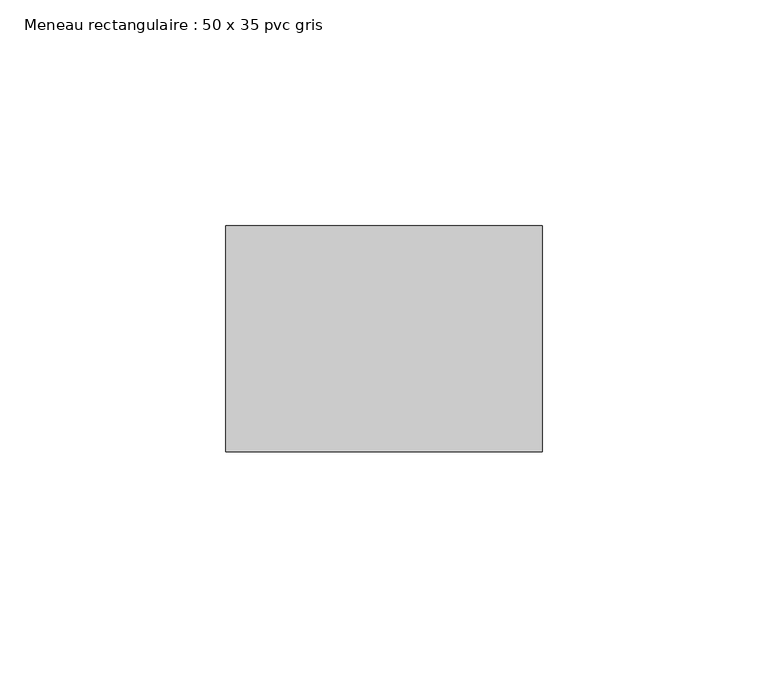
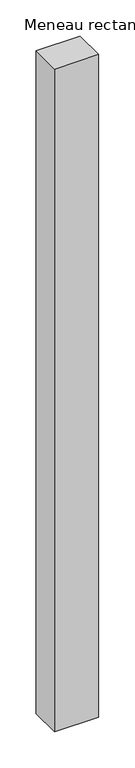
"""IFC4 building model written with IfcOpenShell, lengths in millimetres: member geometry, Meneau rectangulaire : 50 x 35 pvc gris."""

from ifc_helpers import new_model, si_unit, frame, origin, place, context, project, spatial, polyline, outline, extrude, source, transform, mapped, element, save


def meneau_rectangulaire_50_x_35_pvc_gris_ed3e38d0(model_context):
    return source(origin(), model_context, "Body", "SweptSolid", [
        extrude(outline(polyline([(0.0, 0.0), (0.0, -50.0), (-70.0, -50.0), (-70.0, 0.0), (0.0, 0.0)])), frame((0.0, 0.0, -1112.0), z_axis=(0.0, 0.0, 1.0), x_axis=(1.0, 0.0, 0.0)), (0.0, 0.0, 1.0), 1112.0),
    ])


if __name__ == "__main__":
    model = new_model("IFC4")
    model_context = context("Model", 3, world=origin())
    ifc_project = project(units=[si_unit("LENGTHUNIT", "METRE", prefix="MILLI")], contexts=[model_context])
    site = spatial("IfcSite", under=ifc_project)
    building = spatial("IfcBuilding", under=site)
    placement = place(None, origin())
    meneau_rectangulaire_50_x_35_pvc_gris_shape = meneau_rectangulaire_50_x_35_pvc_gris_ed3e38d0(model_context)
    element("IfcMember", 1, ObjectType="Meneau rectangulaire : 50 x 35 pvc gris", at=placement, inside=building, context=model_context, shape_type="MappedRepresentation", body=[
        mapped(meneau_rectangulaire_50_x_35_pvc_gris_shape, transform((0.0, 0.0, 0.0), x_axis=(1.0, 0.0, 0.0), y_axis=(0.0, 1.0, 0.0), z_axis=(0.0, 0.0, 1.0))),
    ])
    save(model, "model.ifc")
